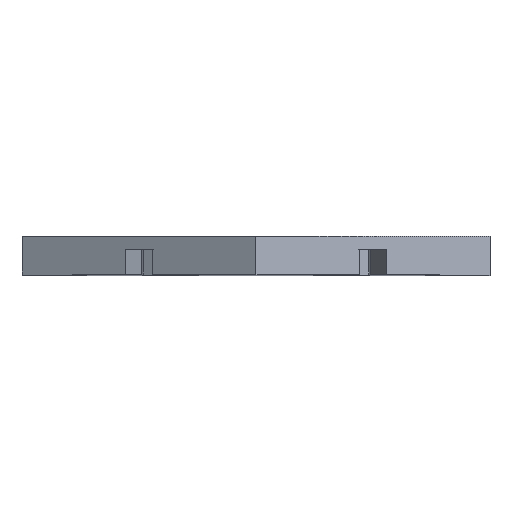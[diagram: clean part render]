
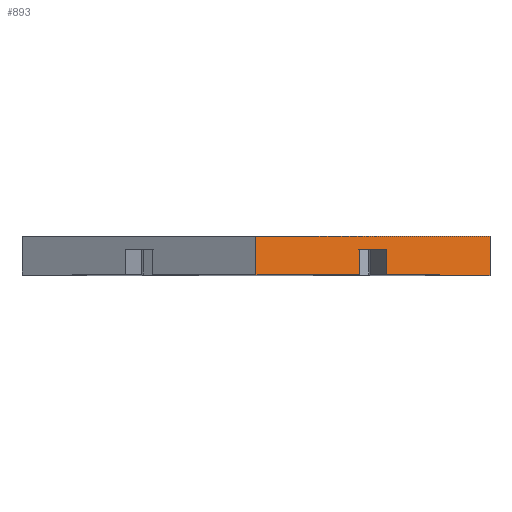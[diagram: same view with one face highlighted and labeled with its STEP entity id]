
A CAD part, top view. The second image highlights one B-rep face of the part: STEP entity #893.
In plain terms, the highlighted planar face has unit normal (0.5, 0, 0.866).
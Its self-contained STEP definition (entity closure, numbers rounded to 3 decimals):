
#47=FACE_OUTER_BOUND('',#91,.T.);
#91=EDGE_LOOP('',(#711,#712,#713,#714,#715,#716,#717,#718));
#140=LINE('',#1258,#266);
#142=LINE('',#1264,#268);
#153=LINE('',#1284,#279);
#191=LINE('',#1363,#317);
#197=LINE('',#1373,#323);
#198=LINE('',#1375,#324);
#199=LINE('',#1377,#325);
#200=LINE('',#1378,#326);
#266=VECTOR('',#1028,10.);
#268=VECTOR('',#1032,10.);
#279=VECTOR('',#1051,10.);
#317=VECTOR('',#1115,10.);
#323=VECTOR('',#1125,10.);
#324=VECTOR('',#1126,10.);
#325=VECTOR('',#1127,10.);
#326=VECTOR('',#1128,10.);
#379=VERTEX_POINT('',#1251);
#382=VERTEX_POINT('',#1256);
#384=VERTEX_POINT('',#1261);
#385=VERTEX_POINT('',#1263);
#417=VERTEX_POINT('',#1360);
#418=VERTEX_POINT('',#1362);
#421=VERTEX_POINT('',#1374);
#422=VERTEX_POINT('',#1376);
#476=EDGE_CURVE('',#379,#382,#140,.T.);
#478=EDGE_CURVE('',#385,#384,#142,.T.);
#489=EDGE_CURVE('',#384,#379,#153,.T.);
#527=EDGE_CURVE('',#417,#418,#191,.T.);
#533=EDGE_CURVE('',#418,#382,#197,.T.);
#534=EDGE_CURVE('',#421,#417,#198,.T.);
#535=EDGE_CURVE('',#421,#422,#199,.T.);
#536=EDGE_CURVE('',#385,#422,#200,.T.);
#711=ORIENTED_EDGE('',*,*,#478,.T.);
#712=ORIENTED_EDGE('',*,*,#489,.T.);
#713=ORIENTED_EDGE('',*,*,#476,.T.);
#714=ORIENTED_EDGE('',*,*,#533,.F.);
#715=ORIENTED_EDGE('',*,*,#527,.F.);
#716=ORIENTED_EDGE('',*,*,#534,.F.);
#717=ORIENTED_EDGE('',*,*,#535,.T.);
#718=ORIENTED_EDGE('',*,*,#536,.F.);
#849=PLANE('',#951);
#893=ADVANCED_FACE('',(#47),#849,.T.);
#951=AXIS2_PLACEMENT_3D('',#1372,#1123,#1124);
#1028=DIRECTION('',(0.,-1.,0.));
#1032=DIRECTION('',(0.,1.,0.));
#1051=DIRECTION('',(0.866,0.,-0.5));
#1115=DIRECTION('',(0.,-1.,0.));
#1123=DIRECTION('center_axis',(0.5,0.,0.866));
#1124=DIRECTION('ref_axis',(-0.866,0.,0.5));
#1125=DIRECTION('',(-0.866,0.,0.5));
#1126=DIRECTION('',(0.866,0.,-0.5));
#1127=DIRECTION('',(0.,-1.,0.));
#1128=DIRECTION('',(-0.866,0.,0.5));
#1251=CARTESIAN_POINT('',(165.965,-2.,30.273));
#1256=CARTESIAN_POINT('',(165.965,-6.,30.273));
#1258=CARTESIAN_POINT('',(165.965,-3.,30.273));
#1261=CARTESIAN_POINT('',(161.635,-2.,32.773));
#1263=CARTESIAN_POINT('',(161.635,-6.,32.773));
#1264=CARTESIAN_POINT('',(161.635,-3.,32.773));
#1284=CARTESIAN_POINT('',(175.907,-2.,24.534));
#1360=CARTESIAN_POINT('',(182.,0.,21.016));
#1362=CARTESIAN_POINT('',(182.,-6.,21.016));
#1363=CARTESIAN_POINT('',(182.,0.,21.016));
#1372=CARTESIAN_POINT('Origin',(182.,0.,21.016));
#1373=CARTESIAN_POINT('',(145.6,-6.,42.031));
#1374=CARTESIAN_POINT('',(145.6,0.,42.031));
#1375=CARTESIAN_POINT('',(145.6,0.,42.031));
#1376=CARTESIAN_POINT('',(145.6,-6.,42.031));
#1377=CARTESIAN_POINT('',(145.6,0.,42.031));
#1378=CARTESIAN_POINT('',(145.6,-6.,42.031));
